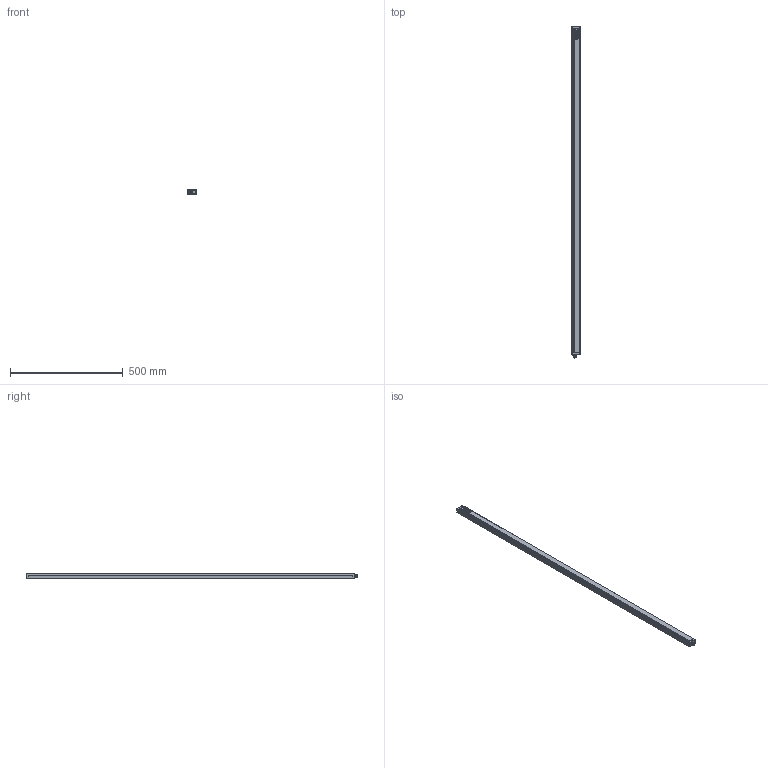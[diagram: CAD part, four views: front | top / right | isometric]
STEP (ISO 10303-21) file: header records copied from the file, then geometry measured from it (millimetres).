
FILE_DESCRIPTION(/* description */ (''),/* implementation_level */ '2;1');
FILE_NAME(/* name */ 'C:\Users\andre\SynologyDrive\Optoscan\Libreria Componenti\00 - Barriere\Barriera sorgente\Argo_1440_TX.stp',/* time_stamp */ '2021-04-22T10:24:56+02:00',/* author */ ('andre'),/* organization */ (''),/* preprocessor_version */ 'ST-DEVELOPER v18',/* originating_system */ 'Autodesk Inventor 2020',/* authorisation */ '');
FILE_SCHEMA (('AUTOMOTIVE_DESIGN { 1 0 10303 214 3 1 1 }'));
Length unit declared in the file: millimetre
Products named in the file (1): Argo_1440_TX
Bounding box: 40.5 x 1473.3 x 20.75 mm (x, y, z)
Volume: 291743.8 mm3; surface area: 382487 mm2
Topology: 1 solids, 1 shells, 696 faces, 1911 edges, 1225 vertices
Faces by surface type: plane 321, cylinder 195, bspline 94, torus 72, cone 8, sphere 6
Full cylindrical faces by diameter (mm): 1 x4, 2.459 x4, 2.5 x4, 3 x4, 3.5 x4, 5.5 x4, 8 x1, 10.5 x2, 11.75 x9, 15.7 x1, 17.5 x1
Entity records: 30770 total; most frequent: CARTESIAN_POINT 12670, ORIENTED_EDGE 3806, DIRECTION 3415, EDGE_CURVE 1903, VERTEX_POINT 1225, AXIS2_PLACEMENT_3D 1193, LINE 1029, VECTOR 1029
